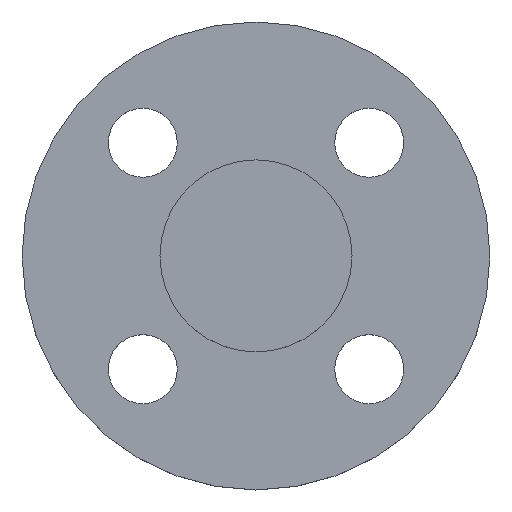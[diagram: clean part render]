
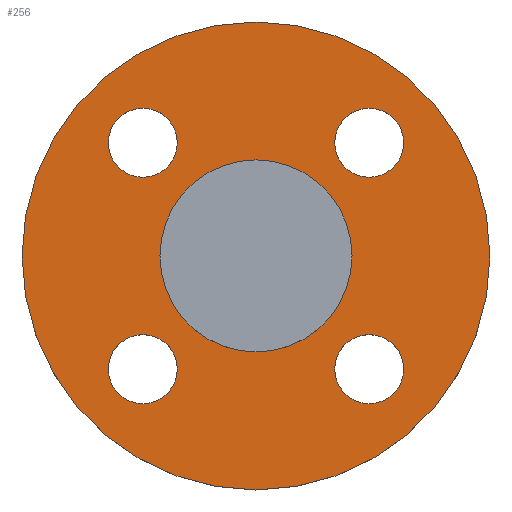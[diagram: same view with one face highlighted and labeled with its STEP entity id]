
A CAD part, top view. The second image highlights one B-rep face of the part: STEP entity #256.
In plain terms, the highlighted planar face has unit normal (0, 0, 1).
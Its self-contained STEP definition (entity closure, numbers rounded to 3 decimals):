
#8 = AXIS2_PLACEMENT_3D ( 'NONE', #482, #483, #484 ) ;
#9 = AXIS2_PLACEMENT_3D ( 'NONE', #494, #495, #496 ) ;
#26 = AXIS2_PLACEMENT_3D ( 'NONE', #423, #424, #425 ) ;
#29 = CIRCLE ( 'NONE', #99, 19.5 ) ;
#35 = CIRCLE ( 'NONE', #44, 7. ) ;
#42 = CIRCLE ( 'NONE', #64, 7. ) ;
#44 = AXIS2_PLACEMENT_3D ( 'NONE', #329, #330, #331 ) ;
#54 = CIRCLE ( 'NONE', #141, 7. ) ;
#64 = AXIS2_PLACEMENT_3D ( 'NONE', #344, #345, #346 ) ;
#65 = EDGE_CURVE ( 'NONE', #251, #151, #35, .T. ) ;
#77 = EDGE_CURVE ( 'NONE', #134, #262, #42, .T. ) ;
#84 = EDGE_CURVE ( 'NONE', #263, #257, #29, .T. ) ;
#85 = EDGE_CURVE ( 'NONE', #262, #134, #54, .T. ) ;
#86 = AXIS2_PLACEMENT_3D ( 'NONE', #414, #415, #416 ) ;
#99 = AXIS2_PLACEMENT_3D ( 'NONE', #355, #356, #357 ) ;
#112 = CIRCLE ( 'NONE', #26, 47.5 ) ;
#119 = CIRCLE ( 'NONE', #204, 7. ) ;
#134 = VERTEX_POINT ( 'NONE', #413 ) ;
#136 = EDGE_CURVE ( 'NONE', #258, #255, #247, .T. ) ;
#137 = CIRCLE ( 'NONE', #373, 19.5 ) ;
#141 = AXIS2_PLACEMENT_3D ( 'NONE', #358, #359, #360 ) ;
#142 = CIRCLE ( 'NONE', #8, 7. ) ;
#144 = EDGE_CURVE ( 'NONE', #156, #183, #112, .T. ) ;
#148 = EDGE_LOOP ( 'NONE', ( #205, #206 ) ) ;
#149 = EDGE_LOOP ( 'NONE', ( #202, #203 ) ) ;
#150 = VERTEX_POINT ( 'NONE', #427 ) ;
#151 = VERTEX_POINT ( 'NONE', #428 ) ;
#156 = VERTEX_POINT ( 'NONE', #433 ) ;
#160 = EDGE_LOOP ( 'NONE', ( #200, #201 ) ) ;
#176 = EDGE_LOOP ( 'NONE', ( #211, #212 ) ) ;
#181 = CIRCLE ( 'NONE', #395, 47.5 ) ;
#183 = VERTEX_POINT ( 'NONE', #438 ) ;
#187 = CIRCLE ( 'NONE', #9, 7. ) ;
#200 = ORIENTED_EDGE ( 'NONE', *, *, #77, .T. ) ;
#201 = ORIENTED_EDGE ( 'NONE', *, *, #85, .T. ) ;
#202 = ORIENTED_EDGE ( 'NONE', *, *, #136, .T. ) ;
#203 = ORIENTED_EDGE ( 'NONE', *, *, #347, .T. ) ;
#204 = AXIS2_PLACEMENT_3D ( 'NONE', #500, #501, #502 ) ;
#205 = ORIENTED_EDGE ( 'NONE', *, *, #65, .T. ) ;
#206 = ORIENTED_EDGE ( 'NONE', *, *, #292, .T. ) ;
#208 = ORIENTED_EDGE ( 'NONE', *, *, #323, .T. ) ;
#210 = ORIENTED_EDGE ( 'NONE', *, *, #305, .T. ) ;
#211 = ORIENTED_EDGE ( 'NONE', *, *, #84, .T. ) ;
#212 = ORIENTED_EDGE ( 'NONE', *, *, #404, .T. ) ;
#213 = ORIENTED_EDGE ( 'NONE', *, *, #441, .F. ) ;
#214 = ORIENTED_EDGE ( 'NONE', *, *, #144, .F. ) ;
#247 = CIRCLE ( 'NONE', #86, 7. ) ;
#251 = VERTEX_POINT ( 'NONE', #452 ) ;
#254 = EDGE_LOOP ( 'NONE', ( #208, #210 ) ) ;
#255 = VERTEX_POINT ( 'NONE', #463 ) ;
#256 = ADVANCED_FACE ( 'NONE', ( #464, #465, #466, #467, #468, #469 ), #470, .T. ) ;
#257 = VERTEX_POINT ( 'NONE', #476 ) ;
#258 = VERTEX_POINT ( 'NONE', #477 ) ;
#259 = EDGE_LOOP ( 'NONE', ( #213, #214 ) ) ;
#261 = VERTEX_POINT ( 'NONE', #478 ) ;
#262 = VERTEX_POINT ( 'NONE', #479 ) ;
#263 = VERTEX_POINT ( 'NONE', #480 ) ;
#266 = CIRCLE ( 'NONE', #443, 7. ) ;
#292 = EDGE_CURVE ( 'NONE', #151, #251, #142, .T. ) ;
#305 = EDGE_CURVE ( 'NONE', #261, #150, #266, .T. ) ;
#323 = EDGE_CURVE ( 'NONE', #150, #261, #187, .T. ) ;
#329 = CARTESIAN_POINT ( 'NONE',  ( -22.981, 22.981, -4.5 ) ) ;
#330 = DIRECTION ( 'NONE',  ( 0., 0., -1. ) ) ;
#331 = DIRECTION ( 'NONE',  ( 1., 0., 0. ) ) ;
#344 = CARTESIAN_POINT ( 'NONE',  ( 22.981, -22.981, -4.5 ) ) ;
#345 = DIRECTION ( 'NONE',  ( 0., 0., -1. ) ) ;
#346 = DIRECTION ( 'NONE',  ( 1., 0., 0. ) ) ;
#347 = EDGE_CURVE ( 'NONE', #255, #258, #119, .T. ) ;
#355 = CARTESIAN_POINT ( 'NONE',  ( 0., 0., -4.5 ) ) ;
#356 = DIRECTION ( 'NONE',  ( 0., 0., -1. ) ) ;
#357 = DIRECTION ( 'NONE',  ( -1., 0., 0. ) ) ;
#358 = CARTESIAN_POINT ( 'NONE',  ( 22.981, -22.981, -4.5 ) ) ;
#359 = DIRECTION ( 'NONE',  ( 0., 0., -1. ) ) ;
#360 = DIRECTION ( 'NONE',  ( 1., 0., 0. ) ) ;
#373 = AXIS2_PLACEMENT_3D ( 'NONE', #507, #508, #509 ) ;
#390 = AXIS2_PLACEMENT_3D ( 'NONE', #471, #474, #475 ) ;
#395 = AXIS2_PLACEMENT_3D ( 'NONE', #510, #511, #512 ) ;
#404 = EDGE_CURVE ( 'NONE', #257, #263, #137, .T. ) ;
#413 = CARTESIAN_POINT ( 'NONE',  ( 29.981, -22.981, -4.5 ) ) ;
#414 = CARTESIAN_POINT ( 'NONE',  ( -22.981, -22.981, -4.5 ) ) ;
#415 = DIRECTION ( 'NONE',  ( 0., 0., -1. ) ) ;
#416 = DIRECTION ( 'NONE',  ( 1., 0., 0. ) ) ;
#423 = CARTESIAN_POINT ( 'NONE',  ( 0., 0., -4.5 ) ) ;
#424 = DIRECTION ( 'NONE',  ( 0., 0., -1. ) ) ;
#425 = DIRECTION ( 'NONE',  ( -1., 0., 0. ) ) ;
#427 = CARTESIAN_POINT ( 'NONE',  ( 29.981, 22.981, -4.5 ) ) ;
#428 = CARTESIAN_POINT ( 'NONE',  ( -29.981, 22.981, -4.5 ) ) ;
#433 = CARTESIAN_POINT ( 'NONE',  ( -47.5, 0., -4.5 ) ) ;
#438 = CARTESIAN_POINT ( 'NONE',  ( 47.5, 0., -4.5 ) ) ;
#441 = EDGE_CURVE ( 'NONE', #183, #156, #181, .T. ) ;
#443 = AXIS2_PLACEMENT_3D ( 'NONE', #490, #492, #493 ) ;
#452 = CARTESIAN_POINT ( 'NONE',  ( -15.981, 22.981, -4.5 ) ) ;
#463 = CARTESIAN_POINT ( 'NONE',  ( -29.981, -22.981, -4.5 ) ) ;
#464 = FACE_BOUND ( 'NONE', #160, .T. ) ;
#465 = FACE_BOUND ( 'NONE', #149, .T. ) ;
#466 = FACE_BOUND ( 'NONE', #148, .T. ) ;
#467 = FACE_BOUND ( 'NONE', #254, .T. ) ;
#468 = FACE_BOUND ( 'NONE', #176, .T. ) ;
#469 = FACE_OUTER_BOUND ( 'NONE', #259, .T. ) ;
#470 = PLANE ( 'NONE',  #390 ) ;
#471 = CARTESIAN_POINT ( 'NONE',  ( 19.5, 0., -4.5 ) ) ;
#474 = DIRECTION ( 'NONE',  ( 0., 0., 1. ) ) ;
#475 = DIRECTION ( 'NONE',  ( 1., 0., 0. ) ) ;
#476 = CARTESIAN_POINT ( 'NONE',  ( 19.5, 0., -4.5 ) ) ;
#477 = CARTESIAN_POINT ( 'NONE',  ( -15.981, -22.981, -4.5 ) ) ;
#478 = CARTESIAN_POINT ( 'NONE',  ( 15.981, 22.981, -4.5 ) ) ;
#479 = CARTESIAN_POINT ( 'NONE',  ( 15.981, -22.981, -4.5 ) ) ;
#480 = CARTESIAN_POINT ( 'NONE',  ( -19.5, 0., -4.5 ) ) ;
#482 = CARTESIAN_POINT ( 'NONE',  ( -22.981, 22.981, -4.5 ) ) ;
#483 = DIRECTION ( 'NONE',  ( 0., 0., -1. ) ) ;
#484 = DIRECTION ( 'NONE',  ( 1., 0., 0. ) ) ;
#490 = CARTESIAN_POINT ( 'NONE',  ( 22.981, 22.981, -4.5 ) ) ;
#492 = DIRECTION ( 'NONE',  ( 0., 0., -1. ) ) ;
#493 = DIRECTION ( 'NONE',  ( 1., 0., 0. ) ) ;
#494 = CARTESIAN_POINT ( 'NONE',  ( 22.981, 22.981, -4.5 ) ) ;
#495 = DIRECTION ( 'NONE',  ( 0., 0., -1. ) ) ;
#496 = DIRECTION ( 'NONE',  ( 1., 0., 0. ) ) ;
#500 = CARTESIAN_POINT ( 'NONE',  ( -22.981, -22.981, -4.5 ) ) ;
#501 = DIRECTION ( 'NONE',  ( 0., 0., -1. ) ) ;
#502 = DIRECTION ( 'NONE',  ( 1., 0., 0. ) ) ;
#507 = CARTESIAN_POINT ( 'NONE',  ( 0., 0., -4.5 ) ) ;
#508 = DIRECTION ( 'NONE',  ( 0., 0., -1. ) ) ;
#509 = DIRECTION ( 'NONE',  ( -1., 0., 0. ) ) ;
#510 = CARTESIAN_POINT ( 'NONE',  ( 0., 0., -4.5 ) ) ;
#511 = DIRECTION ( 'NONE',  ( 0., 0., -1. ) ) ;
#512 = DIRECTION ( 'NONE',  ( -1., 0., 0. ) ) ;
